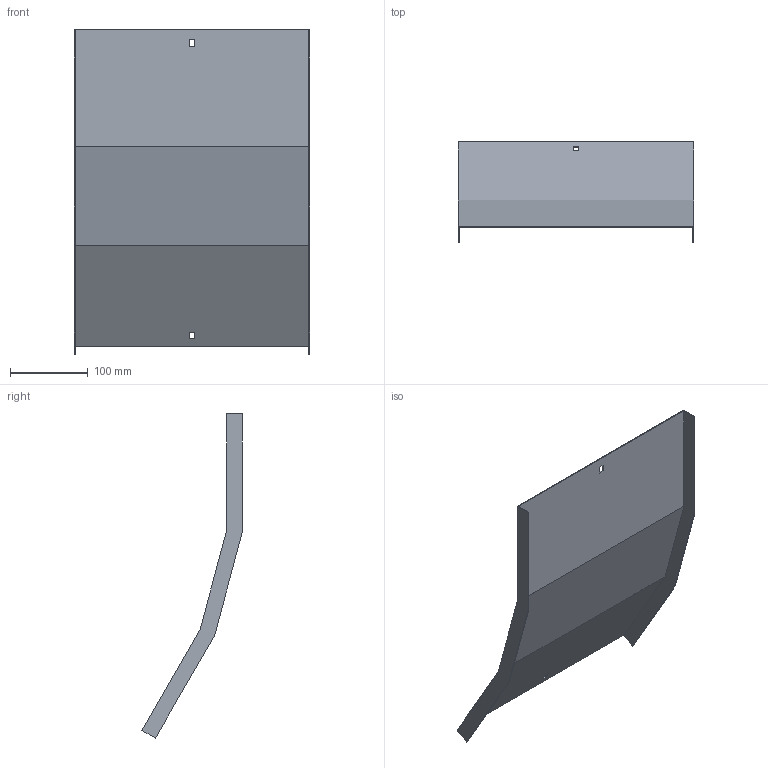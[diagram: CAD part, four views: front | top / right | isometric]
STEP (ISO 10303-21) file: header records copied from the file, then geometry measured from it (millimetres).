
FILE_DESCRIPTION (( 'STEP AP214' ), '1' );
FILE_NAME ('B2X32N5R300X.step', '2025-03-20T09:40:30', ( '' ), ( '' ), 'SwSTEP 2.0', 'SolidWorks 2023', '' );
FILE_SCHEMA (( 'AUTOMOTIVE_DESIGN' ));
Length unit declared in the file: millimetre
Products named in the file (1): B2X32N5R300X
Bounding box: 303 x 128.96 x 416.64 mm (x, y, z)
Volume: 220230.2 mm3; surface area: 296077.3 mm2
Topology: 1 solids, 1 shells, 26 faces, 72 edges, 48 vertices
Faces by surface type: plane 26
Entity records: 847 total; most frequent: CARTESIAN_POINT 147, ORIENTED_EDGE 144, DIRECTION 126, LINE 72, EDGE_CURVE 72, VECTOR 72, VERTEX_POINT 48, EDGE_LOOP 30
